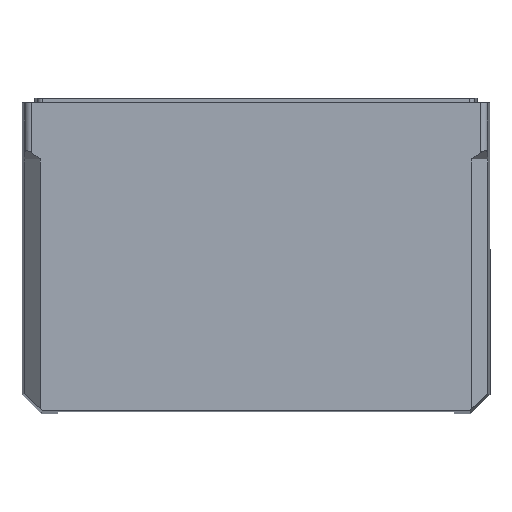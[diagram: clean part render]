
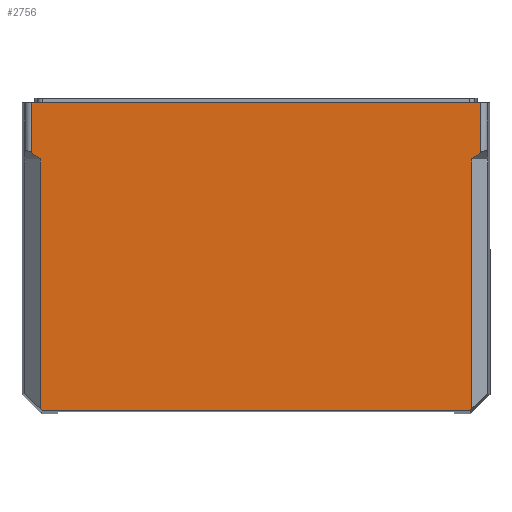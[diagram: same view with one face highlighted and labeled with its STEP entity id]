
A CAD part, front view. The second image highlights one B-rep face of the part: STEP entity #2756.
In plain terms, the highlighted planar face has unit normal (0, -1, 0).
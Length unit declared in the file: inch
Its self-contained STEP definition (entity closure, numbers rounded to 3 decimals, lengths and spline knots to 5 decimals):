
#1321 = CARTESIAN_POINT ( 'NONE',  ( -3.061, -0.79, 2.065 ) ) ;
#1388 = DIRECTION ( 'NONE',  ( 0., 1., 0. ) ) ;
#1831 = DIRECTION ( 'NONE',  ( 0.816, 0., -0.577 ) ) ;
#1889 = EDGE_CURVE ( 'NONE', #21316, #20357, #3395, .T. ) ;
#1947 = ORIENTED_EDGE ( 'NONE', *, *, #3925, .F. ) ;
#2073 = VERTEX_POINT ( 'NONE', #7944 ) ;
#2214 = CARTESIAN_POINT ( 'NONE',  ( 3.03332, -0.79, -1.78732 ) ) ;
#2216 = LINE ( 'NONE', #13113, #10173 ) ;
#2756 = ADVANCED_FACE ( 'NONE', ( #9703 ), #16618, .F. ) ;
#3102 = EDGE_CURVE ( 'NONE', #5432, #8572, #6779, .T. ) ;
#3395 = LINE ( 'NONE', #19339, #12399 ) ;
#3687 = DIRECTION ( 'NONE',  ( 0., 0., -1. ) ) ;
#3925 = EDGE_CURVE ( 'NONE', #9662, #21876, #2216, .T. ) ;
#3975 = CARTESIAN_POINT ( 'NONE',  ( 2.821, -0.79, -1.99964 ) ) ;
#3978 = DIRECTION ( 'NONE',  ( -1., 0., 0. ) ) ;
#4657 = DIRECTION ( 'NONE',  ( 1., 0., 0. ) ) ;
#4807 = CARTESIAN_POINT ( 'NONE',  ( 2.93644, -0.79, 2.005 ) ) ;
#4977 = CARTESIAN_POINT ( 'NONE',  ( 2.821, -0.79, 1.269 ) ) ;
#5073 = CARTESIAN_POINT ( 'NONE',  ( -2.93644, -0.79, 2.005 ) ) ;
#5422 = CARTESIAN_POINT ( 'NONE',  ( -2.821, -0.79, 1.269 ) ) ;
#5432 = VERTEX_POINT ( 'NONE', #12313 ) ;
#5978 = LINE ( 'NONE', #15071, #14464 ) ;
#6261 = LINE ( 'NONE', #18987, #15823 ) ;
#6415 = ORIENTED_EDGE ( 'NONE', *, *, #12743, .T. ) ;
#6726 = CARTESIAN_POINT ( 'NONE',  ( 2.93644, -0.79, 2.005 ) ) ;
#6779 = LINE ( 'NONE', #17678, #19811 ) ;
#7378 = DIRECTION ( 'NONE',  ( 0., 0., -1. ) ) ;
#7438 = DIRECTION ( 'NONE',  ( 0., 0., -1. ) ) ;
#7726 = EDGE_CURVE ( 'NONE', #21316, #2073, #5978, .T. ) ;
#7944 = CARTESIAN_POINT ( 'NONE',  ( 2.93644, -0.79, 1.35063 ) ) ;
#7958 = VECTOR ( 'NONE', #1831, 39.37008 ) ;
#8387 = AXIS2_PLACEMENT_3D ( 'NONE', #1321, #1388, #13262 ) ;
#8409 = DIRECTION ( 'NONE',  ( 0., 0., 1. ) ) ;
#8572 = VERTEX_POINT ( 'NONE', #17407 ) ;
#8585 = CARTESIAN_POINT ( 'NONE',  ( -3.35624, -0.79, 1.64747 ) ) ;
#8637 = EDGE_CURVE ( 'NONE', #9662, #18374, #12047, .T. ) ;
#9082 = CARTESIAN_POINT ( 'NONE',  ( -2.93644, -0.79, 1.41102 ) ) ;
#9231 = ORIENTED_EDGE ( 'NONE', *, *, #12205, .T. ) ;
#9662 = VERTEX_POINT ( 'NONE', #5073 ) ;
#9703 = FACE_OUTER_BOUND ( 'NONE', #18589, .T. ) ;
#9777 = CARTESIAN_POINT ( 'NONE',  ( 2.79478, -0.79, -2.02585 ) ) ;
#9986 = LINE ( 'NONE', #2214, #13974 ) ;
#10173 = VECTOR ( 'NONE', #4657, 39.37008 ) ;
#10746 = VERTEX_POINT ( 'NONE', #9777 ) ;
#10798 = ORIENTED_EDGE ( 'NONE', *, *, #8637, .T. ) ;
#10832 = ORIENTED_EDGE ( 'NONE', *, *, #14664, .T. ) ;
#11662 = VERTEX_POINT ( 'NONE', #5422 ) ;
#11720 = ORIENTED_EDGE ( 'NONE', *, *, #3102, .T. ) ;
#12047 = LINE ( 'NONE', #9082, #20062 ) ;
#12205 = EDGE_CURVE ( 'NONE', #18374, #11662, #21015, .T. ) ;
#12313 = CARTESIAN_POINT ( 'NONE',  ( -2.821, -0.79, -1.99964 ) ) ;
#12358 = EDGE_CURVE ( 'NONE', #10746, #8572, #17786, .T. ) ;
#12399 = VECTOR ( 'NONE', #7438, 39.37008 ) ;
#12435 = CARTESIAN_POINT ( 'NONE',  ( -3.061, -0.79, -2.02585 ) ) ;
#12729 = VECTOR ( 'NONE', #3978, 39.37008 ) ;
#12743 = EDGE_CURVE ( 'NONE', #2073, #21876, #13245, .T. ) ;
#13113 = CARTESIAN_POINT ( 'NONE',  ( -3.061, -0.79, 2.005 ) ) ;
#13245 = LINE ( 'NONE', #6726, #21780 ) ;
#13262 = DIRECTION ( 'NONE',  ( 0., 0., 1. ) ) ;
#13363 = DIRECTION ( 'NONE',  ( 0.816, 0., 0.577 ) ) ;
#13974 = VECTOR ( 'NONE', #19228, 39.37008 ) ;
#14108 = EDGE_CURVE ( 'NONE', #10746, #20357, #9986, .T. ) ;
#14339 = ORIENTED_EDGE ( 'NONE', *, *, #12358, .F. ) ;
#14429 = ORIENTED_EDGE ( 'NONE', *, *, #1889, .F. ) ;
#14464 = VECTOR ( 'NONE', #13363, 39.37008 ) ;
#14664 = EDGE_CURVE ( 'NONE', #11662, #5432, #6261, .T. ) ;
#15071 = CARTESIAN_POINT ( 'NONE',  ( -0.7251, -0.79, -1.23847 ) ) ;
#15823 = VECTOR ( 'NONE', #3687, 39.37008 ) ;
#15982 = DIRECTION ( 'NONE',  ( 0.707, 0., -0.707 ) ) ;
#16618 = PLANE ( 'NONE',  #8387 ) ;
#17407 = CARTESIAN_POINT ( 'NONE',  ( -2.79478, -0.79, -2.02585 ) ) ;
#17678 = CARTESIAN_POINT ( 'NONE',  ( -2.78332, -0.79, -2.03732 ) ) ;
#17786 = LINE ( 'NONE', #12435, #12729 ) ;
#18374 = VERTEX_POINT ( 'NONE', #21668 ) ;
#18589 = EDGE_LOOP ( 'NONE', ( #1947, #10798, #9231, #10832, #11720, #14339, #20750, #14429, #19175, #6415 ) ) ;
#18987 = CARTESIAN_POINT ( 'NONE',  ( -2.821, -0.79, 1.435 ) ) ;
#19175 = ORIENTED_EDGE ( 'NONE', *, *, #7726, .T. ) ;
#19228 = DIRECTION ( 'NONE',  ( 0.707, 0., 0.707 ) ) ;
#19339 = CARTESIAN_POINT ( 'NONE',  ( 2.821, -0.79, 1.435 ) ) ;
#19811 = VECTOR ( 'NONE', #15982, 39.37008 ) ;
#20062 = VECTOR ( 'NONE', #7378, 39.37008 ) ;
#20357 = VERTEX_POINT ( 'NONE', #3975 ) ;
#20750 = ORIENTED_EDGE ( 'NONE', *, *, #14108, .T. ) ;
#21015 = LINE ( 'NONE', #8585, #7958 ) ;
#21316 = VERTEX_POINT ( 'NONE', #4977 ) ;
#21668 = CARTESIAN_POINT ( 'NONE',  ( -2.93644, -0.79, 1.35063 ) ) ;
#21780 = VECTOR ( 'NONE', #8409, 39.37008 ) ;
#21876 = VERTEX_POINT ( 'NONE', #4807 ) ;
